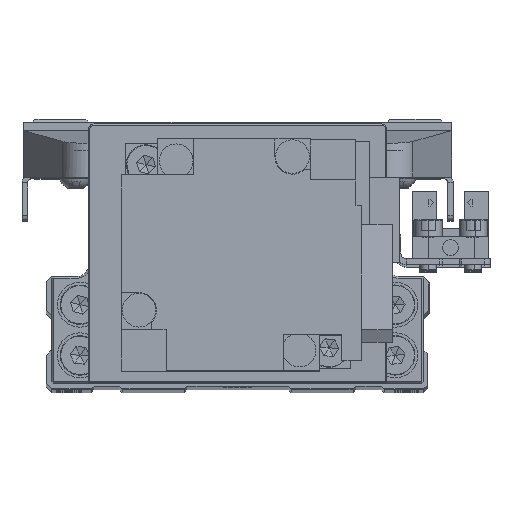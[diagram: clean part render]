
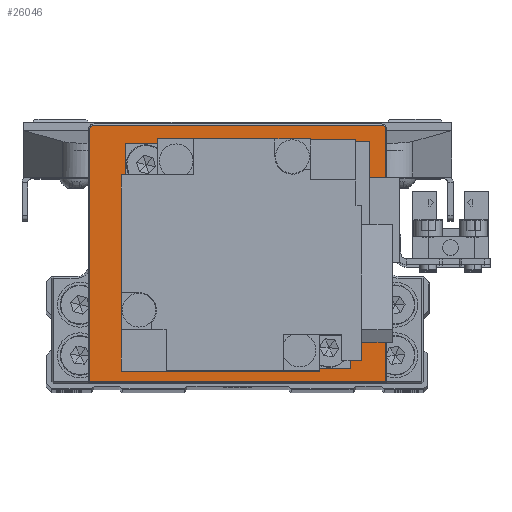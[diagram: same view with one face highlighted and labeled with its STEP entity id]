
A CAD part, top view. The second image highlights one B-rep face of the part: STEP entity #26046.
In plain terms, the highlighted planar face has unit normal (0, 0, 1) as drawn and (0, -1, 0) by its records, which use the part's own axes.
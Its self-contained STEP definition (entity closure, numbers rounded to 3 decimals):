
#235 = CARTESIAN_POINT ( 'NONE',  ( 0., -4., 0. ) ) ;
#637 = VECTOR ( 'NONE', #16029, 1000. ) ;
#844 = CARTESIAN_POINT ( 'NONE',  ( -26.3, -4., -23. ) ) ;
#1319 = CARTESIAN_POINT ( 'NONE',  ( -26.3, -4., -22.8 ) ) ;
#1374 = DIRECTION ( 'NONE',  ( 0., 0., 1. ) ) ;
#4301 = VECTOR ( 'NONE', #30710, 1000. ) ;
#4396 = CARTESIAN_POINT ( 'NONE',  ( 26.5, -4., -22.8 ) ) ;
#5484 = CARTESIAN_POINT ( 'NONE',  ( 26.3, -4., 22. ) ) ;
#6469 = ORIENTED_EDGE ( 'NONE', *, *, #28997, .T. ) ;
#7377 = EDGE_CURVE ( 'NONE', #11006, #27487, #30512, .T. ) ;
#7457 = LINE ( 'NONE', #19089, #4301 ) ;
#9566 = EDGE_CURVE ( 'NONE', #17937, #25435, #24765, .T. ) ;
#10890 = EDGE_CURVE ( 'NONE', #27974, #11641, #28929, .T. ) ;
#11006 = VERTEX_POINT ( 'NONE', #1319 ) ;
#11608 = CARTESIAN_POINT ( 'NONE',  ( 25.5, -4., 22. ) ) ;
#11622 = AXIS2_PLACEMENT_3D ( 'NONE', #235, #11859, #23505 ) ;
#11641 = VERTEX_POINT ( 'NONE', #14780 ) ;
#11859 = DIRECTION ( 'NONE',  ( 0., -1., 0. ) ) ;
#11995 = CARTESIAN_POINT ( 'NONE',  ( -25.5, -4., 22. ) ) ;
#12466 = DIRECTION ( 'NONE',  ( 0., 0., -1. ) ) ;
#12470 = AXIS2_PLACEMENT_3D ( 'NONE', #11995, #23630, #35259 ) ;
#13201 = AXIS2_PLACEMENT_3D ( 'NONE', #11608, #23253, #34875 ) ;
#14732 = FACE_OUTER_BOUND ( 'NONE', #27576, .T. ) ;
#14780 = CARTESIAN_POINT ( 'NONE',  ( -26.3, -4., 22. ) ) ;
#15864 = LINE ( 'NONE', #27501, #21558 ) ;
#15947 = CARTESIAN_POINT ( 'NONE',  ( 26.3, -4., -22.8 ) ) ;
#16029 = DIRECTION ( 'NONE',  ( 1., 0., 0. ) ) ;
#17937 = VERTEX_POINT ( 'NONE', #5484 ) ;
#19089 = CARTESIAN_POINT ( 'NONE',  ( -25.5, -4., 22.8 ) ) ;
#19144 = CARTESIAN_POINT ( 'NONE',  ( -25.5, -4., 22.8 ) ) ;
#21558 = VECTOR ( 'NONE', #1374, 1000. ) ;
#22073 = ORIENTED_EDGE ( 'NONE', *, *, #10890, .T. ) ;
#23253 = DIRECTION ( 'NONE',  ( 0., -1., 0. ) ) ;
#23375 = ORIENTED_EDGE ( 'NONE', *, *, #36128, .T. ) ;
#23505 = DIRECTION ( 'NONE',  ( 0., 0., -1. ) ) ;
#23630 = DIRECTION ( 'NONE',  ( 0., -1., 0. ) ) ;
#24574 = CARTESIAN_POINT ( 'NONE',  ( 25.5, -4., 22.8 ) ) ;
#24765 = CIRCLE ( 'NONE', #13201, 0.8 ) ;
#25435 = VERTEX_POINT ( 'NONE', #24574 ) ;
#26046 = ADVANCED_FACE ( 'NONE', ( #14732 ), #26367, .T. ) ;
#26367 = PLANE ( 'NONE',  #11622 ) ;
#26982 = LINE ( 'NONE', #844, #31869 ) ;
#27041 = ORIENTED_EDGE ( 'NONE', *, *, #29457, .T. ) ;
#27487 = VERTEX_POINT ( 'NONE', #15947 ) ;
#27501 = CARTESIAN_POINT ( 'NONE',  ( 26.3, -4., 22. ) ) ;
#27576 = EDGE_LOOP ( 'NONE', ( #33311, #27041, #28812, #23375, #22073, #6469 ) ) ;
#27974 = VERTEX_POINT ( 'NONE', #19144 ) ;
#28812 = ORIENTED_EDGE ( 'NONE', *, *, #9566, .T. ) ;
#28929 = CIRCLE ( 'NONE', #12470, 0.8 ) ;
#28997 = EDGE_CURVE ( 'NONE', #11641, #11006, #26982, .T. ) ;
#29457 = EDGE_CURVE ( 'NONE', #27487, #17937, #15864, .T. ) ;
#30512 = LINE ( 'NONE', #4396, #637 ) ;
#30710 = DIRECTION ( 'NONE',  ( -1., 0., 0. ) ) ;
#31869 = VECTOR ( 'NONE', #12466, 1000. ) ;
#33311 = ORIENTED_EDGE ( 'NONE', *, *, #7377, .T. ) ;
#34875 = DIRECTION ( 'NONE',  ( 0., 0., -1. ) ) ;
#35259 = DIRECTION ( 'NONE',  ( 0., 0., -1. ) ) ;
#36128 = EDGE_CURVE ( 'NONE', #25435, #27974, #7457, .T. ) ;
